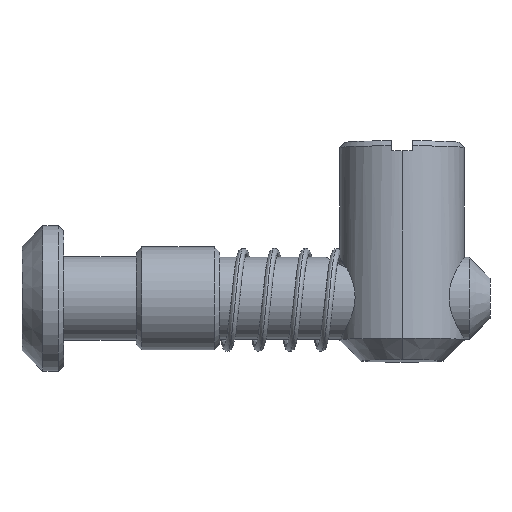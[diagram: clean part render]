
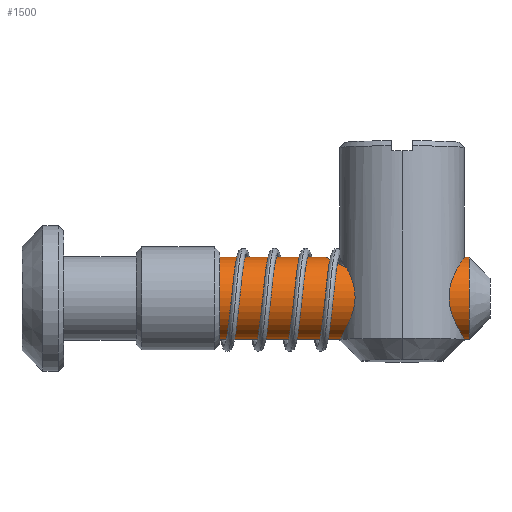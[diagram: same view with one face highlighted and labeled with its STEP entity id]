
A CAD part, left-side view. The second image highlights one B-rep face of the part: STEP entity #1500.
In plain terms, the highlighted cylindrical face has radius 3.95 mm (diameter 7.9 mm), a partial arc.
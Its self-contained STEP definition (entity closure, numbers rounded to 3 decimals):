
#69 = VERTEX_POINT ( 'NONE', #180 ) ;
#165 = LINE ( 'NONE', #1977, #1606 ) ;
#176 = CARTESIAN_POINT ( 'NONE',  ( -9.718, -1.29, 17.907 ) ) ;
#180 = CARTESIAN_POINT ( 'NONE',  ( -8.639, 8.34, 18.056 ) ) ;
#403 = VECTOR ( 'NONE', #1808, 1000. ) ;
#411 = CARTESIAN_POINT ( 'NONE',  ( -11.886, 3.109, 16.353 ) ) ;
#591 = VERTEX_POINT ( 'NONE', #746 ) ;
#595 = VERTEX_POINT ( 'NONE', #763 ) ;
#667 = VERTEX_POINT ( 'NONE', #776 ) ;
#746 = CARTESIAN_POINT ( 'NONE',  ( -8.639, 18.59, 18.056 ) ) ;
#751 = B_SPLINE_CURVE_WITH_KNOTS ( 'NONE', 3,
 ( #1059, #411, #1066, #1498, #1511, #1512, #1521, #1536, #1648, #1871, #1683, #1688, #1695, #1704, #1717, #176, #3205, #1550, #1930, #1902, #1903, #1910 ),
 .UNSPECIFIED., .F., .F.,
 ( 4, 2, 2, 2, 2, 2, 2, 2, 2, 2, 4 ),
 ( 0.022, 0.023, 0.024, 0.025, 0.026, 0.026, 0.027, 0.028, 0.028, 0.029, 0.029 ),
 .UNSPECIFIED. ) ;
#763 = CARTESIAN_POINT ( 'NONE',  ( -8.639, -5.41, 10.156 ) ) ;
#776 = CARTESIAN_POINT ( 'NONE',  ( -11.886, 3.39, 16.353 ) ) ;
#810 = EDGE_CURVE ( 'NONE', #667, #1430, #751, .T. ) ;
#839 = LINE ( 'NONE', #1383, #881 ) ;
#851 = CARTESIAN_POINT ( 'NONE',  ( -11.872, 3.952, 16.375 ) ) ;
#877 = B_SPLINE_CURVE_WITH_KNOTS ( 'NONE', 3,
 ( #2412, #2386, #2968, #2976, #2982, #2998, #1069, #1089, #1100, #1093, #1637, #1643, #1647, #1757, #1785, #1807, #998, #851, #960, #1034 ),
 .UNSPECIFIED., .F., .F.,
 ( 4, 2, 2, 2, 2, 2, 2, 2, 2, 4 ),
 ( 0.015, 0.016, 0.017, 0.017, 0.018, 0.019, 0.02, 0.021, 0.021, 0.022 ),
 .UNSPECIFIED. ) ;
#881 = VECTOR ( 'NONE', #1336, 1000. ) ;
#916 = EDGE_CURVE ( 'NONE', #69, #667, #877, .T. ) ;
#960 = CARTESIAN_POINT ( 'NONE',  ( -11.886, 3.672, 16.353 ) ) ;
#998 = CARTESIAN_POINT ( 'NONE',  ( -11.812, 4.507, 16.458 ) ) ;
#1034 = CARTESIAN_POINT ( 'NONE',  ( -11.886, 3.39, 16.353 ) ) ;
#1059 = CARTESIAN_POINT ( 'NONE',  ( -11.886, 3.39, 16.353 ) ) ;
#1066 = CARTESIAN_POINT ( 'NONE',  ( -11.871, 2.823, 16.376 ) ) ;
#1067 = VERTEX_POINT ( 'NONE', #1119 ) ;
#1069 = CARTESIAN_POINT ( 'NONE',  ( -10.067, 7.853, 17.79 ) ) ;
#1083 = AXIS2_PLACEMENT_3D ( 'NONE', #2176, #2183, #2186 ) ;
#1089 = CARTESIAN_POINT ( 'NONE',  ( -10.382, 7.603, 17.657 ) ) ;
#1093 = CARTESIAN_POINT ( 'NONE',  ( -10.895, 6.997, 17.353 ) ) ;
#1100 = CARTESIAN_POINT ( 'NONE',  ( -10.569, 7.408, 17.557 ) ) ;
#1119 = CARTESIAN_POINT ( 'NONE',  ( -8.639, -5.41, 18.056 ) ) ;
#1336 = DIRECTION ( 'NONE',  ( 0., 1., 0. ) ) ;
#1361 = EDGE_CURVE ( 'NONE', #595, #1067, #1423, .T. ) ;
#1383 = CARTESIAN_POINT ( 'NONE',  ( -8.639, 37.59, 18.056 ) ) ;
#1420 = LINE ( 'NONE', #1823, #403 ) ;
#1423 = CIRCLE ( 'NONE', #1083, 3.95 ) ;
#1430 = VERTEX_POINT ( 'NONE', #2234 ) ;
#1498 = CARTESIAN_POINT ( 'NONE',  ( -11.811, 2.27, 16.459 ) ) ;
#1500 = ADVANCED_FACE ( 'NONE', ( #2827 ), #2003, .T. ) ;
#1511 = CARTESIAN_POINT ( 'NONE',  ( -11.767, 1.999, 16.519 ) ) ;
#1512 = CARTESIAN_POINT ( 'NONE',  ( -11.647, 1.467, 16.667 ) ) ;
#1521 = CARTESIAN_POINT ( 'NONE',  ( -11.572, 1.206, 16.754 ) ) ;
#1536 = CARTESIAN_POINT ( 'NONE',  ( -11.391, 0.707, 16.941 ) ) ;
#1550 = CARTESIAN_POINT ( 'NONE',  ( -9.334, -1.453, 17.996 ) ) ;
#1596 = ORIENTED_EDGE ( 'NONE', *, *, #1361, .T. ) ;
#1606 = VECTOR ( 'NONE', #1641, 1000. ) ;
#1614 = EDGE_CURVE ( 'NONE', #2620, #591, #2158, .T. ) ;
#1637 = CARTESIAN_POINT ( 'NONE',  ( -11.037, 6.777, 17.248 ) ) ;
#1639 = ORIENTED_EDGE ( 'NONE', *, *, #810, .F. ) ;
#1641 = DIRECTION ( 'NONE',  ( 0., 1., 0. ) ) ;
#1643 = CARTESIAN_POINT ( 'NONE',  ( -11.286, 6.312, 17.041 ) ) ;
#1647 = CARTESIAN_POINT ( 'NONE',  ( -11.393, 6.069, 16.94 ) ) ;
#1648 = CARTESIAN_POINT ( 'NONE',  ( -11.285, 0.467, 17.042 ) ) ;
#1655 = EDGE_LOOP ( 'NONE', ( #1680, #1596, #2011, #1639, #3187, #2873, #2835 ) ) ;
#1680 = ORIENTED_EDGE ( 'NONE', *, *, #2764, .F. ) ;
#1683 = CARTESIAN_POINT ( 'NONE',  ( -10.893, -0.219, 17.354 ) ) ;
#1688 = CARTESIAN_POINT ( 'NONE',  ( -10.566, -0.631, 17.559 ) ) ;
#1695 = CARTESIAN_POINT ( 'NONE',  ( -10.38, -0.824, 17.658 ) ) ;
#1704 = CARTESIAN_POINT ( 'NONE',  ( -10.064, -1.075, 17.791 ) ) ;
#1717 = CARTESIAN_POINT ( 'NONE',  ( -9.953, -1.152, 17.832 ) ) ;
#1757 = CARTESIAN_POINT ( 'NONE',  ( -11.573, 5.57, 16.753 ) ) ;
#1785 = CARTESIAN_POINT ( 'NONE',  ( -11.647, 5.314, 16.667 ) ) ;
#1807 = CARTESIAN_POINT ( 'NONE',  ( -11.766, 4.784, 16.52 ) ) ;
#1808 = DIRECTION ( 'NONE',  ( 0., 1., 0. ) ) ;
#1823 = CARTESIAN_POINT ( 'NONE',  ( -8.639, 37.59, 18.056 ) ) ;
#1871 = CARTESIAN_POINT ( 'NONE',  ( -11.037, 0.004, 17.248 ) ) ;
#1902 = CARTESIAN_POINT ( 'NONE',  ( -8.922, -1.546, 18.048 ) ) ;
#1903 = CARTESIAN_POINT ( 'NONE',  ( -8.779, -1.56, 18.056 ) ) ;
#1910 = CARTESIAN_POINT ( 'NONE',  ( -8.639, -1.56, 18.056 ) ) ;
#1930 = CARTESIAN_POINT ( 'NONE',  ( -9.2, -1.492, 18.018 ) ) ;
#1977 = CARTESIAN_POINT ( 'NONE',  ( -8.639, 37.59, 10.156 ) ) ;
#1992 = EDGE_CURVE ( 'NONE', #69, #591, #1420, .T. ) ;
#2003 = CYLINDRICAL_SURFACE ( 'NONE', #2755, 3.95 ) ;
#2011 = ORIENTED_EDGE ( 'NONE', *, *, #2833, .T. ) ;
#2158 = CIRCLE ( 'NONE', #2696, 3.95 ) ;
#2176 = CARTESIAN_POINT ( 'NONE',  ( -8.639, -5.41, 14.106 ) ) ;
#2183 = DIRECTION ( 'NONE',  ( 0., 1., 0. ) ) ;
#2186 = DIRECTION ( 'NONE',  ( 0., 0., 1. ) ) ;
#2234 = CARTESIAN_POINT ( 'NONE',  ( -8.639, -1.56, 18.056 ) ) ;
#2386 = CARTESIAN_POINT ( 'NONE',  ( -8.921, 8.34, 18.056 ) ) ;
#2412 = CARTESIAN_POINT ( 'NONE',  ( -8.639, 8.34, 18.056 ) ) ;
#2518 = CARTESIAN_POINT ( 'NONE',  ( -8.639, 37.59, 14.106 ) ) ;
#2564 = DIRECTION ( 'NONE',  ( 0., 0., 1. ) ) ;
#2620 = VERTEX_POINT ( 'NONE', #3084 ) ;
#2650 = DIRECTION ( 'NONE',  ( 0., 1., 0. ) ) ;
#2696 = AXIS2_PLACEMENT_3D ( 'NONE', #3169, #3166, #3160 ) ;
#2755 = AXIS2_PLACEMENT_3D ( 'NONE', #2518, #2650, #2564 ) ;
#2764 = EDGE_CURVE ( 'NONE', #595, #2620, #165, .T. ) ;
#2827 = FACE_OUTER_BOUND ( 'NONE', #1655, .T. ) ;
#2833 = EDGE_CURVE ( 'NONE', #1067, #1430, #839, .T. ) ;
#2835 = ORIENTED_EDGE ( 'NONE', *, *, #1614, .F. ) ;
#2873 = ORIENTED_EDGE ( 'NONE', *, *, #1992, .T. ) ;
#2968 = CARTESIAN_POINT ( 'NONE',  ( -9.205, 8.283, 18.024 ) ) ;
#2976 = CARTESIAN_POINT ( 'NONE',  ( -9.595, 8.131, 17.94 ) ) ;
#2982 = CARTESIAN_POINT ( 'NONE',  ( -9.72, 8.069, 17.906 ) ) ;
#2998 = CARTESIAN_POINT ( 'NONE',  ( -9.956, 7.931, 17.831 ) ) ;
#3084 = CARTESIAN_POINT ( 'NONE',  ( -8.639, 18.59, 10.156 ) ) ;
#3160 = DIRECTION ( 'NONE',  ( 0., 0., 1. ) ) ;
#3166 = DIRECTION ( 'NONE',  ( 0., 1., 0. ) ) ;
#3169 = CARTESIAN_POINT ( 'NONE',  ( -8.639, 18.59, 14.106 ) ) ;
#3187 = ORIENTED_EDGE ( 'NONE', *, *, #916, .F. ) ;
#3205 = CARTESIAN_POINT ( 'NONE',  ( -9.593, -1.352, 17.941 ) ) ;
